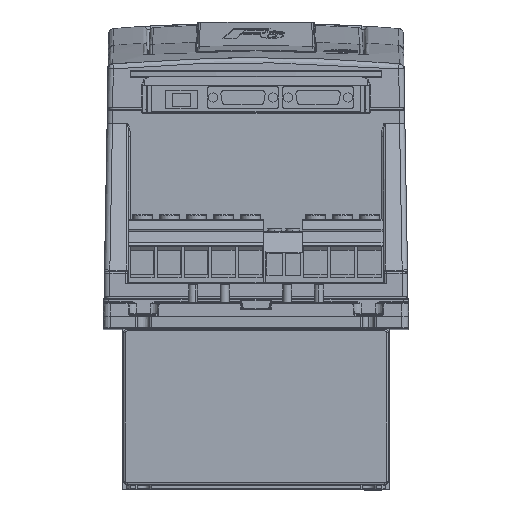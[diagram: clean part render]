
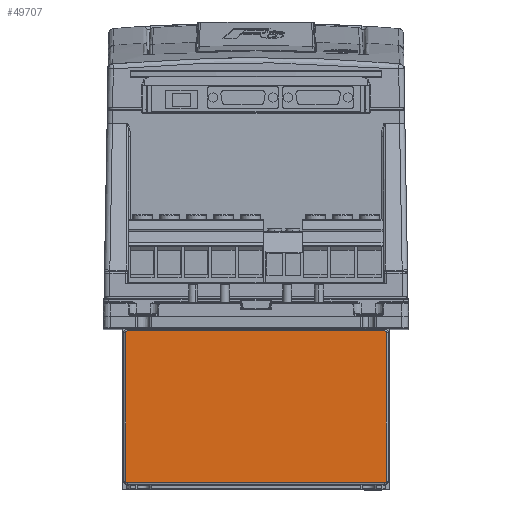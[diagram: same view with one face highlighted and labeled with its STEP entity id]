
A CAD part, top view. The second image highlights one B-rep face of the part: STEP entity #49707.
In plain terms, the highlighted planar face has unit normal (0, 0, 1).
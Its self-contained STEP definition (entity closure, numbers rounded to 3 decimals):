
#3272 = DIRECTION ( 'NONE',  ( 1., 0., 0. ) ) ;
#4930 = CIRCLE ( 'NONE', #24645, 1. ) ;
#5218 = CIRCLE ( 'NONE', #43456, 1. ) ;
#5865 = VECTOR ( 'NONE', #38998, 1000. ) ;
#6072 = VERTEX_POINT ( 'NONE', #41553 ) ;
#6608 = CARTESIAN_POINT ( 'NONE',  ( -72.5, -45.9, 60. ) ) ;
#7798 = CARTESIAN_POINT ( 'NONE',  ( 71.5, -3.65, 60. ) ) ;
#9049 = CARTESIAN_POINT ( 'NONE',  ( 72.5, -87.15, 60. ) ) ;
#9323 = CIRCLE ( 'NONE', #47563, 1. ) ;
#9514 = EDGE_CURVE ( 'NONE', #36462, #57114, #46207, .T. ) ;
#10111 = VECTOR ( 'NONE', #16864, 1000. ) ;
#11620 = ORIENTED_EDGE ( 'NONE', *, *, #61676, .T. ) ;
#14029 = EDGE_CURVE ( 'NONE', #57114, #6072, #52402, .T. ) ;
#14204 = ORIENTED_EDGE ( 'NONE', *, *, #14029, .T. ) ;
#16199 = LINE ( 'NONE', #6608, #10111 ) ;
#16628 = VECTOR ( 'NONE', #21751, 1000. ) ;
#16710 = CARTESIAN_POINT ( 'NONE',  ( -71.5, -87.15, 60. ) ) ;
#16864 = DIRECTION ( 'NONE',  ( 0., -1., 0. ) ) ;
#18062 = ORIENTED_EDGE ( 'NONE', *, *, #61912, .T. ) ;
#19038 = EDGE_CURVE ( 'NONE', #39665, #36813, #4930, .T. ) ;
#19704 = PLANE ( 'NONE',  #33577 ) ;
#19807 = EDGE_LOOP ( 'NONE', ( #11620, #46185, #67108, #14204, #18062, #27646, #27623, #39690 ) ) ;
#20232 = DIRECTION ( 'NONE',  ( -1., 0., 0. ) ) ;
#21751 = DIRECTION ( 'NONE',  ( 0., 1., 0. ) ) ;
#24506 = DIRECTION ( 'NONE',  ( 0., 0., 1. ) ) ;
#24645 = AXIS2_PLACEMENT_3D ( 'NONE', #53461, #59569, #31915 ) ;
#24848 = CARTESIAN_POINT ( 'NONE',  ( 0., -45.9, 60. ) ) ;
#27183 = CARTESIAN_POINT ( 'NONE',  ( 0., -88.15, 60. ) ) ;
#27623 = ORIENTED_EDGE ( 'NONE', *, *, #45984, .T. ) ;
#27646 = ORIENTED_EDGE ( 'NONE', *, *, #41686, .T. ) ;
#28407 = AXIS2_PLACEMENT_3D ( 'NONE', #40422, #41075, #61969 ) ;
#31915 = DIRECTION ( 'NONE',  ( 1., 0., 0. ) ) ;
#32012 = LINE ( 'NONE', #53566, #16628 ) ;
#33577 = AXIS2_PLACEMENT_3D ( 'NONE', #24848, #24506, #65904 ) ;
#36462 = VERTEX_POINT ( 'NONE', #7798 ) ;
#36813 = VERTEX_POINT ( 'NONE', #9049 ) ;
#36890 = DIRECTION ( 'NONE',  ( 1., 0., 0. ) ) ;
#38998 = DIRECTION ( 'NONE',  ( 1., 0., 0. ) ) ;
#39665 = VERTEX_POINT ( 'NONE', #64967 ) ;
#39690 = ORIENTED_EDGE ( 'NONE', *, *, #19038, .T. ) ;
#40422 = CARTESIAN_POINT ( 'NONE',  ( -71.5, -4.65, 60. ) ) ;
#41075 = DIRECTION ( 'NONE',  ( 0., 0., 1. ) ) ;
#41553 = CARTESIAN_POINT ( 'NONE',  ( -72.5, -4.65, 60. ) ) ;
#41686 = EDGE_CURVE ( 'NONE', #45557, #61702, #9323, .T. ) ;
#41857 = VERTEX_POINT ( 'NONE', #45722 ) ;
#42935 = CARTESIAN_POINT ( 'NONE',  ( -71.5, -88.15, 60. ) ) ;
#43456 = AXIS2_PLACEMENT_3D ( 'NONE', #48781, #54622, #3272 ) ;
#45557 = VERTEX_POINT ( 'NONE', #64943 ) ;
#45722 = CARTESIAN_POINT ( 'NONE',  ( 72.5, -4.65, 60. ) ) ;
#45882 = EDGE_CURVE ( 'NONE', #41857, #36462, #5218, .T. ) ;
#45984 = EDGE_CURVE ( 'NONE', #61702, #39665, #59883, .T. ) ;
#46185 = ORIENTED_EDGE ( 'NONE', *, *, #45882, .T. ) ;
#46207 = LINE ( 'NONE', #67082, #58927 ) ;
#47563 = AXIS2_PLACEMENT_3D ( 'NONE', #16710, #48518, #36890 ) ;
#48518 = DIRECTION ( 'NONE',  ( 0., 0., 1. ) ) ;
#48781 = CARTESIAN_POINT ( 'NONE',  ( 71.5, -4.65, 60. ) ) ;
#49707 = ADVANCED_FACE ( 'NONE', ( #55289 ), #19704, .T. ) ;
#51397 = CARTESIAN_POINT ( 'NONE',  ( -71.5, -3.65, 60. ) ) ;
#52402 = CIRCLE ( 'NONE', #28407, 1. ) ;
#53461 = CARTESIAN_POINT ( 'NONE',  ( 71.5, -87.15, 60. ) ) ;
#53566 = CARTESIAN_POINT ( 'NONE',  ( 72.5, -45.9, 60. ) ) ;
#54622 = DIRECTION ( 'NONE',  ( 0., 0., 1. ) ) ;
#55289 = FACE_OUTER_BOUND ( 'NONE', #19807, .T. ) ;
#57114 = VERTEX_POINT ( 'NONE', #51397 ) ;
#58927 = VECTOR ( 'NONE', #20232, 1000. ) ;
#59569 = DIRECTION ( 'NONE',  ( 0., 0., 1. ) ) ;
#59883 = LINE ( 'NONE', #27183, #5865 ) ;
#61676 = EDGE_CURVE ( 'NONE', #36813, #41857, #32012, .T. ) ;
#61702 = VERTEX_POINT ( 'NONE', #42935 ) ;
#61912 = EDGE_CURVE ( 'NONE', #6072, #45557, #16199, .T. ) ;
#61969 = DIRECTION ( 'NONE',  ( 1., 0., 0. ) ) ;
#64943 = CARTESIAN_POINT ( 'NONE',  ( -72.5, -87.15, 60. ) ) ;
#64967 = CARTESIAN_POINT ( 'NONE',  ( 71.5, -88.15, 60. ) ) ;
#65904 = DIRECTION ( 'NONE',  ( 1., 0., 0. ) ) ;
#67082 = CARTESIAN_POINT ( 'NONE',  ( 0., -3.65, 60. ) ) ;
#67108 = ORIENTED_EDGE ( 'NONE', *, *, #9514, .T. ) ;
